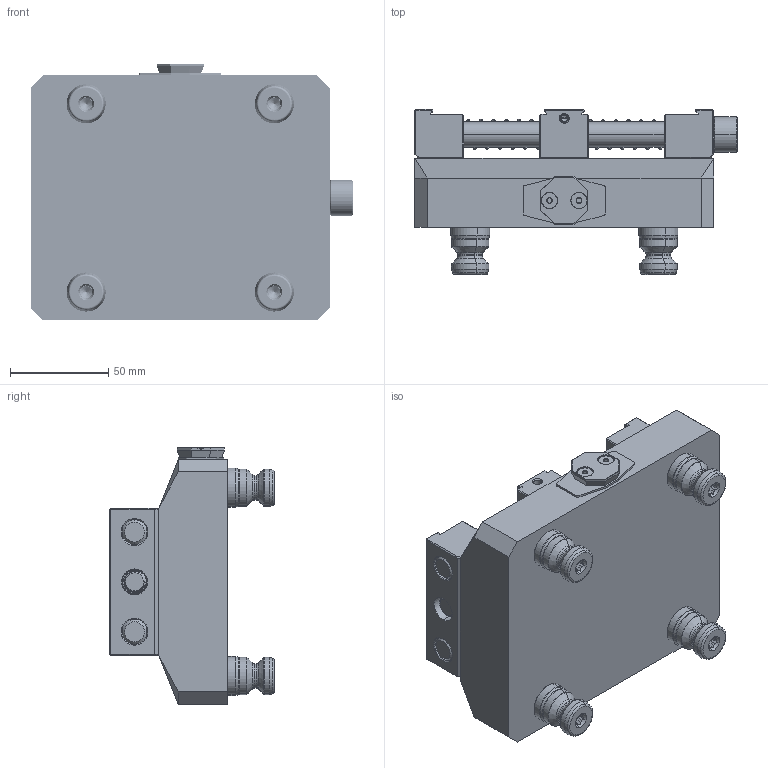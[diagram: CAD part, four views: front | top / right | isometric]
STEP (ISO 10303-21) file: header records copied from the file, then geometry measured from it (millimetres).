
FILE_DESCRIPTION (( 'STEP AP203' ), '1' );
FILE_NAME ('A96-PV3X-6A.STEP', '2022-02-09T18:25:01', ( '' ), ( '' ), 'SwSTEP 2.0', 'SolidWorks 2021', '' );
FILE_SCHEMA (( 'CONFIG_CONTROL_DESIGN' ));
Length unit declared in the file: millimetre
Products named in the file (19): PV3X-3A_FINISHED PART; 91595A100_METRIC ALLOY STEEL DOWEL PIN_91595A100; M12X150.SHCS_91290A646; 0500X6000.DP_0500X6000.DP; AS-C; LC045H10 M; PV3X-2A_FINISHED PART; AS-TP; M8X025.SHCS_M8X025.SHCS; 91263A829_ZINC-PLATED ALLOY STEEL HEX DRIVE FLAT HEAD SCREW_91263A829; PV3X-6A_150MM SHCS; PS20F; AS-S; M10X25.CPSS_91390A162; A96-PV3X-6A; M06X010.DP_91595A438; PV3X-1_FINISHED PART ; A96-PV3X-1; PS20F-1_HARD TURN
Assembly tree (27 placements, depth 3):
  A96-PV3X-6A
    PV3X-6A_150MM SHCS
      PV3X-1_FINISHED PART 
      PV3X-2A_FINISHED PART
      PV3X-3A_FINISHED PART
      0500X6000.DP_0500X6000.DP  x2
      M12X150.SHCS_91290A646
      LC045H10 M  x2
      M8X025.SHCS_M8X025.SHCS  x2
      M06X010.DP_91595A438  x2
    AS-TP
      AS-C
      AS-S
      91263A829_ZINC-PLATED ALLOY STEEL HEX DRIVE FLAT HEAD SCREW_91263A829  x2
      91595A100_METRIC ALLOY STEEL DOWEL PIN_91595A100  x2
    A96-PV3X-1
    PS20F  x4
      PS20F-1_HARD TURN
      M10X25.CPSS_91390A162
Bounding box: 164.4 x 84 x 131 mm (x, y, z)
Volume: 805857.7 mm3; surface area: 140957.5 mm2
Topology: 27 solids, 27 shells, 2182 faces, 5570 edges, 3512 vertices
Faces by surface type: plane 823, cylinder 769, cone 306, bspline 180, torus 88, sphere 16
Entity records: 71142 total; most frequent: CARTESIAN_POINT 34477, ORIENTED_EDGE 7880, DIRECTION 6246, EDGE_CURVE 3940, VERTEX_POINT 2535, VECTOR 2196, LINE 2196, AXIS2_PLACEMENT_3D 2025
